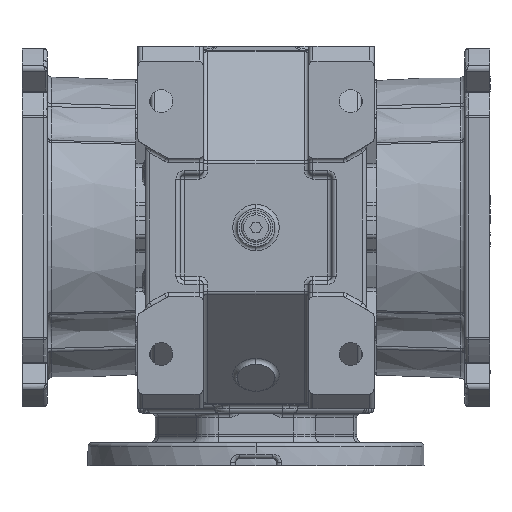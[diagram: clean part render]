
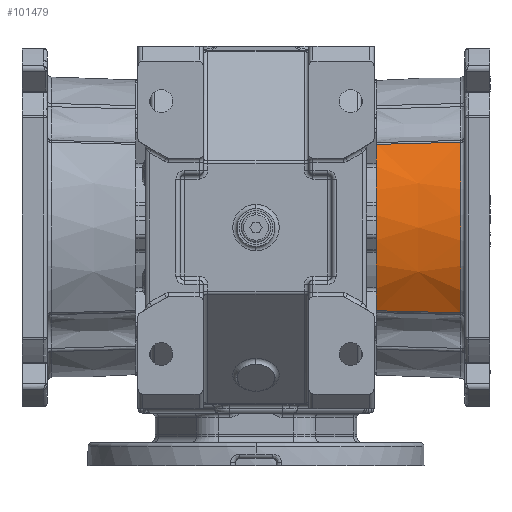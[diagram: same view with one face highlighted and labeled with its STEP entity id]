
A CAD part, front view. The second image highlights one B-rep face of the part: STEP entity #101479.
In plain terms, the highlighted conical face has half-angle 2 degrees and reference radius 71.467 mm.
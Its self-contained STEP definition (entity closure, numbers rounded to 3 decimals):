
#101301 = EDGE_LOOP ( 'NONE', ( #101309, #101324, #101390, #101402 ) ) ;
#101309 = ORIENTED_EDGE ( 'NONE', *, *, #101311, .T. ) ;
#101311 = EDGE_CURVE ( 'NONE', #101315, #101316, #165160, .T. ) ;
#101315 = VERTEX_POINT ( 'NONE', #165155 ) ;
#101316 = VERTEX_POINT ( 'NONE', #165154 ) ;
#101324 = ORIENTED_EDGE ( 'NONE', *, *, #101326, .T. ) ;
#101326 = EDGE_CURVE ( 'NONE', #101316, #101328, #165147, .T. ) ;
#101328 = VERTEX_POINT ( 'NONE', #165146 ) ;
#101390 = ORIENTED_EDGE ( 'NONE', *, *, #101392, .F. ) ;
#101392 = EDGE_CURVE ( 'NONE', #101396, #101328, #165270, .T. ) ;
#101396 = VERTEX_POINT ( 'NONE', #165265 ) ;
#101402 = ORIENTED_EDGE ( 'NONE', *, *, #101405, .T. ) ;
#101405 = EDGE_CURVE ( 'NONE', #101396, #101315, #165259, .T. ) ;
#101479 = ADVANCED_FACE ( 'NONE', ( #165353 ), #165352, .T. ) ;
#165146 = CARTESIAN_POINT ( 'NONE',  ( 39.461, -57.817, 0. ) ) ;
#165147 = B_SPLINE_CURVE_WITH_KNOTS ( 'NONE', 3,
 ( #165209, #165208, #165207, #165206 ),
 .UNSPECIFIED., .F., .F.,
 ( 4, 4 ),
 ( 0., 0.04 ),
 .UNSPECIFIED. ) ;
#165154 = CARTESIAN_POINT ( 'NONE',  ( 40.454, -58.833, -40.07 ) ) ;
#165155 = CARTESIAN_POINT ( 'NONE',  ( -40.454, -58.833, -40.07 ) ) ;
#165156 = DIRECTION ( 'NONE',  ( -1., 0., 0. ) ) ;
#165157 = DIRECTION ( 'NONE',  ( 0., 0., 1. ) ) ;
#165158 = CARTESIAN_POINT ( 'NONE',  ( 0., 0., -40.07 ) ) ;
#165159 = AXIS2_PLACEMENT_3D ( 'NONE', #165158, #165157, #165156 ) ;
#165160 = CIRCLE ( 'NONE', #165159, 71.399 ) ;
#165206 = CARTESIAN_POINT ( 'NONE',  ( 39.461, -57.817, 0. ) ) ;
#165207 = CARTESIAN_POINT ( 'NONE',  ( 39.792, -58.156, -13.357 ) ) ;
#165208 = CARTESIAN_POINT ( 'NONE',  ( 40.123, -58.494, -26.713 ) ) ;
#165209 = CARTESIAN_POINT ( 'NONE',  ( 40.454, -58.833, -40.07 ) ) ;
#165254 = CARTESIAN_POINT ( 'NONE',  ( -40.454, -58.833, -40.07 ) ) ;
#165255 = CARTESIAN_POINT ( 'NONE',  ( -40.123, -58.494, -26.713 ) ) ;
#165256 = CARTESIAN_POINT ( 'NONE',  ( -39.792, -58.156, -13.357 ) ) ;
#165257 = CARTESIAN_POINT ( 'NONE',  ( -39.461, -57.817, 0. ) ) ;
#165259 = B_SPLINE_CURVE_WITH_KNOTS ( 'NONE', 3,
 ( #165257, #165256, #165255, #165254 ),
 .UNSPECIFIED., .F., .F.,
 ( 4, 4 ),
 ( 0., 0.04 ),
 .UNSPECIFIED. ) ;
#165265 = CARTESIAN_POINT ( 'NONE',  ( -39.461, -57.817, 0. ) ) ;
#165266 = DIRECTION ( 'NONE',  ( 1., 0., 0. ) ) ;
#165267 = DIRECTION ( 'NONE',  ( 0., 0., 1. ) ) ;
#165268 = CARTESIAN_POINT ( 'NONE',  ( 0., 0., 0. ) ) ;
#165269 = AXIS2_PLACEMENT_3D ( 'NONE', #165268, #165267, #165266 ) ;
#165270 = CIRCLE ( 'NONE', #165269, 70. ) ;
#165347 = DIRECTION ( 'NONE',  ( -1., 0., 0. ) ) ;
#165348 = DIRECTION ( 'NONE',  ( 0., 0., -1. ) ) ;
#165349 = CARTESIAN_POINT ( 'NONE',  ( 0., 0., -42. ) ) ;
#165350 = AXIS2_PLACEMENT_3D ( 'NONE', #165349, #165348, #165347 ) ;
#165352 = CONICAL_SURFACE ( 'NONE', #165350, 71.467, 0.035 ) ;
#165353 = FACE_OUTER_BOUND ( 'NONE', #101301, .T. ) ;
